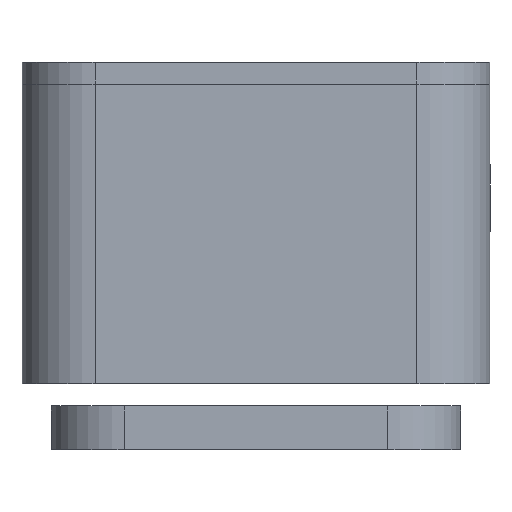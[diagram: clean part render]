
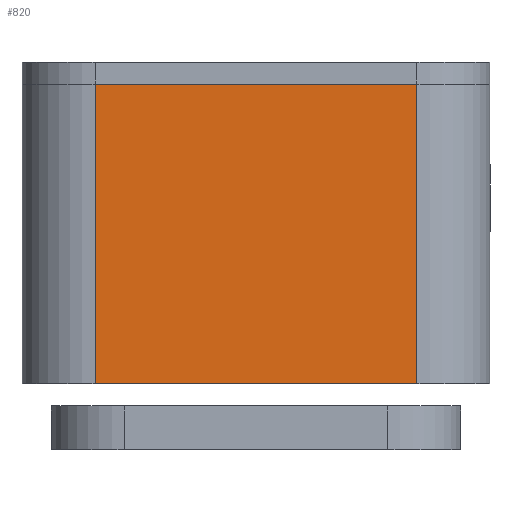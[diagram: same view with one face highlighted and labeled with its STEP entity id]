
A CAD part, front view. The second image highlights one B-rep face of the part: STEP entity #820.
In plain terms, the highlighted planar face has unit normal (0, -1, 0).
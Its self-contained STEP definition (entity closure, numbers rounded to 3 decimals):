
#44 = CYLINDRICAL_SURFACE('',#45,5.);
#45 = AXIS2_PLACEMENT_3D('',#46,#47,#48);
#46 = CARTESIAN_POINT('',(-11.,-33.,-9.));
#47 = DIRECTION('',(0.,0.,-1.));
#48 = DIRECTION('',(-1.,0.,0.));
#72 = PLANE('',#73);
#73 = AXIS2_PLACEMENT_3D('',#74,#75,#76);
#74 = CARTESIAN_POINT('',(0.,0.,11.5));
#75 = DIRECTION('',(0.,0.,1.));
#76 = DIRECTION('',(1.,0.,-0.));
#126 = PLANE('',#127);
#127 = AXIS2_PLACEMENT_3D('',#128,#129,#130);
#128 = CARTESIAN_POINT('',(0.,0.,-9.));
#129 = DIRECTION('',(0.,0.,1.));
#130 = DIRECTION('',(1.,0.,-0.));
#141 = EDGE_CURVE('',#142,#144,#146,.T.);
#142 = VERTEX_POINT('',#143);
#143 = CARTESIAN_POINT('',(-11.,-38.,-9.));
#144 = VERTEX_POINT('',#145);
#145 = CARTESIAN_POINT('',(-11.,-38.,11.5));
#146 = SURFACE_CURVE('',#147,(#151,#158),.PCURVE_S1.);
#147 = LINE('',#148,#149);
#148 = CARTESIAN_POINT('',(-11.,-38.,-9.));
#149 = VECTOR('',#150,1.);
#150 = DIRECTION('',(0.,0.,1.));
#151 = PCURVE('',#44,#152);
#152 = DEFINITIONAL_REPRESENTATION('',(#153),#157);
#153 = LINE('',#154,#155);
#154 = CARTESIAN_POINT('',(4.712,0.));
#155 = VECTOR('',#156,1.);
#156 = DIRECTION('',(0.,-1.));
#157 = ( GEOMETRIC_REPRESENTATION_CONTEXT(2) 
PARAMETRIC_REPRESENTATION_CONTEXT() REPRESENTATION_CONTEXT('2D SPACE',''
  ) );
#158 = PCURVE('',#159,#164);
#159 = PLANE('',#160);
#160 = AXIS2_PLACEMENT_3D('',#161,#162,#163);
#161 = CARTESIAN_POINT('',(-11.,-38.,-9.));
#162 = DIRECTION('',(0.,1.,0.));
#163 = DIRECTION('',(1.,0.,0.));
#164 = DEFINITIONAL_REPRESENTATION('',(#165),#169);
#165 = LINE('',#166,#167);
#166 = CARTESIAN_POINT('',(0.,0.));
#167 = VECTOR('',#168,1.);
#168 = DIRECTION('',(0.,-1.));
#169 = ( GEOMETRIC_REPRESENTATION_CONTEXT(2) 
PARAMETRIC_REPRESENTATION_CONTEXT() REPRESENTATION_CONTEXT('2D SPACE',''
  ) );
#315 = EDGE_CURVE('',#142,#316,#318,.T.);
#316 = VERTEX_POINT('',#317);
#317 = CARTESIAN_POINT('',(11.,-38.,-9.));
#318 = SURFACE_CURVE('',#319,(#323,#330),.PCURVE_S1.);
#319 = LINE('',#320,#321);
#320 = CARTESIAN_POINT('',(0.,-38.,-9.));
#321 = VECTOR('',#322,1.);
#322 = DIRECTION('',(1.,0.,0.));
#323 = PCURVE('',#126,#324);
#324 = DEFINITIONAL_REPRESENTATION('',(#325),#329);
#325 = LINE('',#326,#327);
#326 = CARTESIAN_POINT('',(0.,-38.));
#327 = VECTOR('',#328,1.);
#328 = DIRECTION('',(1.,0.));
#329 = ( GEOMETRIC_REPRESENTATION_CONTEXT(2) 
PARAMETRIC_REPRESENTATION_CONTEXT() REPRESENTATION_CONTEXT('2D SPACE',''
  ) );
#330 = PCURVE('',#159,#331);
#331 = DEFINITIONAL_REPRESENTATION('',(#332),#336);
#332 = LINE('',#333,#334);
#333 = CARTESIAN_POINT('',(11.,0.));
#334 = VECTOR('',#335,1.);
#335 = DIRECTION('',(1.,0.));
#336 = ( GEOMETRIC_REPRESENTATION_CONTEXT(2) 
PARAMETRIC_REPRESENTATION_CONTEXT() REPRESENTATION_CONTEXT('2D SPACE',''
  ) );
#359 = CYLINDRICAL_SURFACE('',#360,5.);
#360 = AXIS2_PLACEMENT_3D('',#361,#362,#363);
#361 = CARTESIAN_POINT('',(11.,-33.,-9.));
#362 = DIRECTION('',(0.,0.,-1.));
#363 = DIRECTION('',(-1.,0.,0.));
#459 = EDGE_CURVE('',#144,#460,#462,.T.);
#460 = VERTEX_POINT('',#461);
#461 = CARTESIAN_POINT('',(11.,-38.,11.5));
#462 = SURFACE_CURVE('',#463,(#467,#474),.PCURVE_S1.);
#463 = LINE('',#464,#465);
#464 = CARTESIAN_POINT('',(0.,-38.,11.5));
#465 = VECTOR('',#466,1.);
#466 = DIRECTION('',(1.,0.,0.));
#467 = PCURVE('',#72,#468);
#468 = DEFINITIONAL_REPRESENTATION('',(#469),#473);
#469 = LINE('',#470,#471);
#470 = CARTESIAN_POINT('',(0.,-38.));
#471 = VECTOR('',#472,1.);
#472 = DIRECTION('',(1.,0.));
#473 = ( GEOMETRIC_REPRESENTATION_CONTEXT(2) 
PARAMETRIC_REPRESENTATION_CONTEXT() REPRESENTATION_CONTEXT('2D SPACE',''
  ) );
#474 = PCURVE('',#159,#475);
#475 = DEFINITIONAL_REPRESENTATION('',(#476),#480);
#476 = LINE('',#477,#478);
#477 = CARTESIAN_POINT('',(11.,-20.5));
#478 = VECTOR('',#479,1.);
#479 = DIRECTION('',(1.,0.));
#480 = ( GEOMETRIC_REPRESENTATION_CONTEXT(2) 
PARAMETRIC_REPRESENTATION_CONTEXT() REPRESENTATION_CONTEXT('2D SPACE',''
  ) );
#820 = ADVANCED_FACE('',(#821),#159,.F.);
#821 = FACE_BOUND('',#822,.F.);
#822 = EDGE_LOOP('',(#823,#824,#825,#846));
#823 = ORIENTED_EDGE('',*,*,#141,.T.);
#824 = ORIENTED_EDGE('',*,*,#459,.T.);
#825 = ORIENTED_EDGE('',*,*,#826,.F.);
#826 = EDGE_CURVE('',#316,#460,#827,.T.);
#827 = SURFACE_CURVE('',#828,(#832,#839),.PCURVE_S1.);
#828 = LINE('',#829,#830);
#829 = CARTESIAN_POINT('',(11.,-38.,-9.));
#830 = VECTOR('',#831,1.);
#831 = DIRECTION('',(0.,0.,1.));
#832 = PCURVE('',#159,#833);
#833 = DEFINITIONAL_REPRESENTATION('',(#834),#838);
#834 = LINE('',#835,#836);
#835 = CARTESIAN_POINT('',(22.,0.));
#836 = VECTOR('',#837,1.);
#837 = DIRECTION('',(0.,-1.));
#838 = ( GEOMETRIC_REPRESENTATION_CONTEXT(2) 
PARAMETRIC_REPRESENTATION_CONTEXT() REPRESENTATION_CONTEXT('2D SPACE',''
  ) );
#839 = PCURVE('',#359,#840);
#840 = DEFINITIONAL_REPRESENTATION('',(#841),#845);
#841 = LINE('',#842,#843);
#842 = CARTESIAN_POINT('',(4.712,0.));
#843 = VECTOR('',#844,1.);
#844 = DIRECTION('',(0.,-1.));
#845 = ( GEOMETRIC_REPRESENTATION_CONTEXT(2) 
PARAMETRIC_REPRESENTATION_CONTEXT() REPRESENTATION_CONTEXT('2D SPACE',''
  ) );
#846 = ORIENTED_EDGE('',*,*,#315,.F.);
